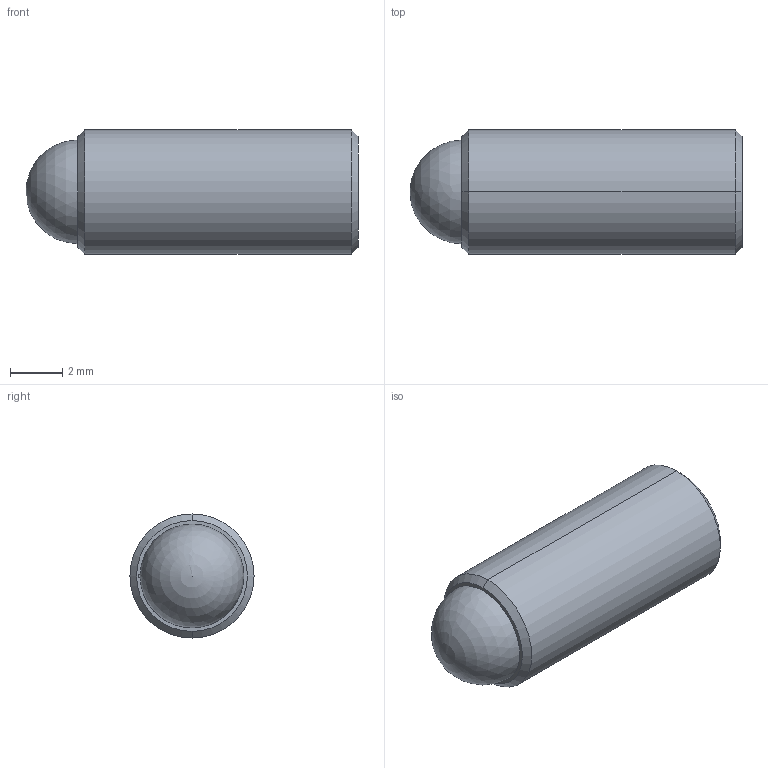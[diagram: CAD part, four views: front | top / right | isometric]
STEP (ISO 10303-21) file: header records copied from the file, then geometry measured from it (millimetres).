
FILE_DESCRIPTION (( 'STEP AP214' ), '1' );
FILE_NAME ('TS187-100-500-AA-HV.STEP', '2013-05-09T12:26:12', ( 'workpc' ), ( 'Microsoft' ), 'SwSTEP 2.0', 'SolidWorks 2013', '' );
FILE_SCHEMA (( 'AUTOMOTIVE_DESIGN' ));
Length unit declared in the file: inch
Products named in the file (1): TS187-100-500-AA-HV
Bounding box: 12.7 x 4.75 x 4.75 mm (x, y, z)
Volume: 186 mm3; surface area: 283.9 mm2
Topology: 2 solids, 2 shells, 28 faces, 66 edges, 42 vertices
Faces by surface type: cylinder 11, plane 11, cone 4, sphere 2
Entity records: 851 total; most frequent: DIRECTION 144, CARTESIAN_POINT 135, ORIENTED_EDGE 122, EDGE_CURVE 61, AXIS2_PLACEMENT_3D 56, VERTEX_POINT 39, LINE 32, VECTOR 32
